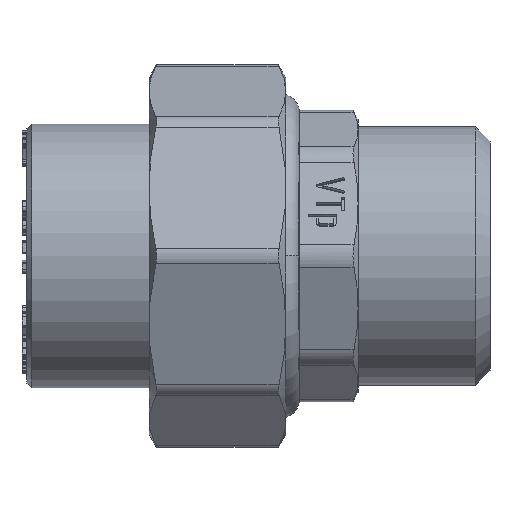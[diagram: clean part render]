
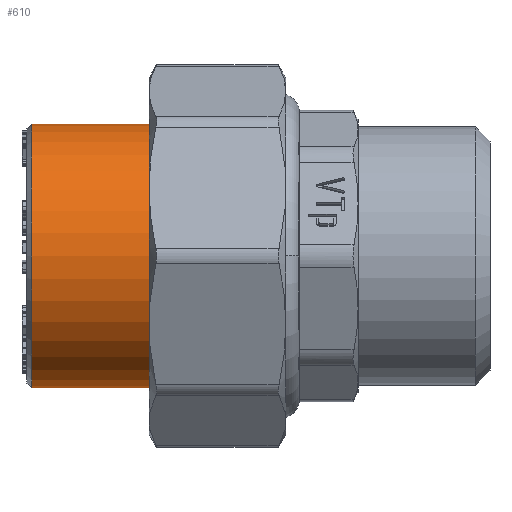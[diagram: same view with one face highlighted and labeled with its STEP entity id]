
A CAD part, left-side view. The second image highlights one B-rep face of the part: STEP entity #610.
In plain terms, the highlighted cylindrical face has radius 13.5 mm (diameter 27 mm), a full revolution.
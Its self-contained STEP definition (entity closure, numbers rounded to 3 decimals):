
#610=ADVANCED_FACE('',(#4430,#4432),#4434,.T.);
#4430=FACE_OUTER_BOUND('',#4431,.T.);
#4431=EDGE_LOOP('',(#10964));
#4432=FACE_OUTER_BOUND('',#4433,.T.);
#4433=EDGE_LOOP('',(#10965));
#4434=CYLINDRICAL_SURFACE('',#4435,13.5);
#4435=AXIS2_PLACEMENT_3D('',#4436,#4437,#4438);
#4436=CARTESIAN_POINT('',(0.,0.,0.));
#4437=DIRECTION('',(0.,-1.,0.));
#4438=DIRECTION('',(1.,0.,0.));
#10964=ORIENTED_EDGE('',*,*,#14971,.T.);
#10965=ORIENTED_EDGE('',*,*,#14975,.F.);
#14971=EDGE_CURVE('',#18444,#18444,#18445,.T.);
#14975=EDGE_CURVE('',#18451,#18451,#18452,.T.);
#18444=VERTEX_POINT('',#25554);
#18445=CIRCLE('',#25555,13.5);
#18451=VERTEX_POINT('',#25572);
#18452=CIRCLE('',#25573,13.5);
#25554=CARTESIAN_POINT('',(13.5,-0.5,0.));
#25555=AXIS2_PLACEMENT_3D('',#25556,#25557,#25558);
#25556=CARTESIAN_POINT('',(0.,-0.5,0.));
#25557=DIRECTION('',(0.,-1.,0.));
#25558=DIRECTION('',(1.,0.,0.));
#25572=CARTESIAN_POINT('',(13.5,-14.5,0.));
#25573=AXIS2_PLACEMENT_3D('',#25574,#25575,#25576);
#25574=CARTESIAN_POINT('',(0.,-14.5,0.));
#25575=DIRECTION('',(0.,-1.,0.));
#25576=DIRECTION('',(1.,0.,0.));
